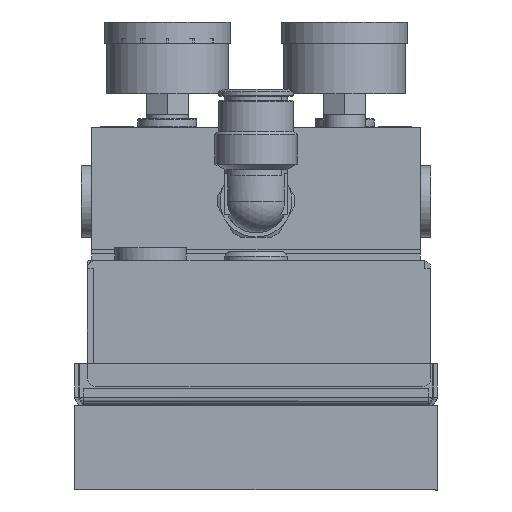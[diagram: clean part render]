
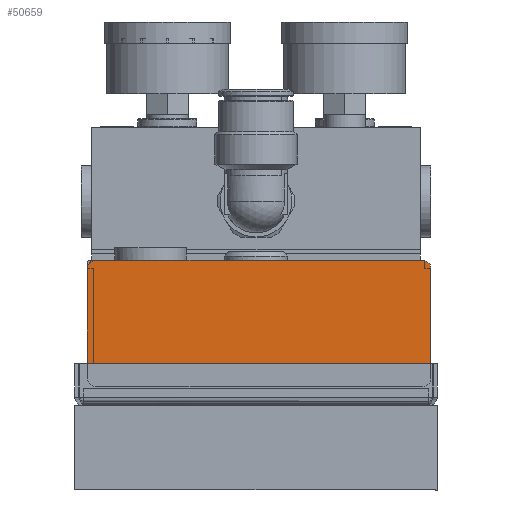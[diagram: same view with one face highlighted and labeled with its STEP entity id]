
A CAD part, front view. The second image highlights one B-rep face of the part: STEP entity #50659.
In plain terms, the highlighted planar face has unit normal (0, -1, 0).
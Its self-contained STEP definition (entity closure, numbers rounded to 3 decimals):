
#73 = CARTESIAN_POINT ( 'NONE',  ( -90.992, -1178.064, 1.327 ) ) ;
#147 = DIRECTION ( 'NONE',  ( 0., -1., 0. ) ) ;
#773 = DIRECTION ( 'NONE',  ( 0., 1., 0. ) ) ;
#1270 = ORIENTED_EDGE ( 'NONE', *, *, #40360, .F. ) ;
#1930 = LINE ( 'NONE', #25560, #1974 ) ;
#1974 = VECTOR ( 'NONE', #29881, 1000. ) ;
#2203 = CIRCLE ( 'NONE', #22258, 2. ) ;
#3123 = CARTESIAN_POINT ( 'NONE',  ( -88.992, -1178.064, 29.327 ) ) ;
#4678 = EDGE_CURVE ( 'NONE', #18770, #53908, #2203, .T. ) ;
#4890 = CARTESIAN_POINT ( 'NONE',  ( -11.492, -1178.064, 1.327 ) ) ;
#6028 = DIRECTION ( 'NONE',  ( 0., 1., 0. ) ) ;
#6137 = ORIENTED_EDGE ( 'NONE', *, *, #4678, .F. ) ;
#8725 = CARTESIAN_POINT ( 'NONE',  ( -88.992, -1178.064, -0.673 ) ) ;
#12542 = VECTOR ( 'NONE', #49815, 1000. ) ;
#12597 = LINE ( 'NONE', #3123, #12542 ) ;
#12793 = DIRECTION ( 'NONE',  ( 0., 1., 0. ) ) ;
#13867 = DIRECTION ( 'NONE',  ( 0., 1., 0. ) ) ;
#14103 = ORIENTED_EDGE ( 'NONE', *, *, #20179, .F. ) ;
#14724 = ORIENTED_EDGE ( 'NONE', *, *, #18721, .F. ) ;
#15212 = CARTESIAN_POINT ( 'NONE',  ( -88.992, -1178.064, -0.673 ) ) ;
#16963 = CARTESIAN_POINT ( 'NONE',  ( -11.492, -1178.064, 29.327 ) ) ;
#17062 = EDGE_LOOP ( 'NONE', ( #21635, #47165, #35986, #14724, #6137, #14103, #31845, #1270 ) ) ;
#17339 = EDGE_CURVE ( 'NONE', #31674, #33628, #46182, .T. ) ;
#17647 = DIRECTION ( 'NONE',  ( -1., 0., 0. ) ) ;
#18721 = EDGE_CURVE ( 'NONE', #53908, #31674, #20693, .T. ) ;
#18770 = VERTEX_POINT ( 'NONE', #16963 ) ;
#20112 = VERTEX_POINT ( 'NONE', #32708 ) ;
#20179 = EDGE_CURVE ( 'NONE', #20112, #18770, #12597, .T. ) ;
#20693 = LINE ( 'NONE', #48630, #21041 ) ;
#21041 = VECTOR ( 'NONE', #49002, 1000. ) ;
#21635 = ORIENTED_EDGE ( 'NONE', *, *, #48827, .F. ) ;
#22166 = FACE_OUTER_BOUND ( 'NONE', #17062, .T. ) ;
#22258 = AXIS2_PLACEMENT_3D ( 'NONE', #35290, #6028, #30953 ) ;
#22652 = EDGE_CURVE ( 'NONE', #33628, #26929, #40457, .T. ) ;
#24663 = VERTEX_POINT ( 'NONE', #40568 ) ;
#25560 = CARTESIAN_POINT ( 'NONE',  ( -90.992, -1178.064, 1.327 ) ) ;
#26489 = AXIS2_PLACEMENT_3D ( 'NONE', #39291, #13867, #43668 ) ;
#26929 = VERTEX_POINT ( 'NONE', #15212 ) ;
#28723 = AXIS2_PLACEMENT_3D ( 'NONE', #38147, #12793, #42500 ) ;
#29066 = DIRECTION ( 'NONE',  ( -1., 0., 0. ) ) ;
#29881 = DIRECTION ( 'NONE',  ( 0., 0., 1. ) ) ;
#30953 = DIRECTION ( 'NONE',  ( 1., 0., 0. ) ) ;
#31674 = VERTEX_POINT ( 'NONE', #32419 ) ;
#31845 = ORIENTED_EDGE ( 'NONE', *, *, #48647, .F. ) ;
#32419 = CARTESIAN_POINT ( 'NONE',  ( -9.492, -1178.064, 1.327 ) ) ;
#32708 = CARTESIAN_POINT ( 'NONE',  ( -88.992, -1178.064, 29.327 ) ) ;
#32778 = VERTEX_POINT ( 'NONE', #73 ) ;
#33628 = VERTEX_POINT ( 'NONE', #43605 ) ;
#35290 = CARTESIAN_POINT ( 'NONE',  ( -11.492, -1178.064, 27.327 ) ) ;
#35499 = AXIS2_PLACEMENT_3D ( 'NONE', #46285, #147, #29066 ) ;
#35986 = ORIENTED_EDGE ( 'NONE', *, *, #17339, .F. ) ;
#38147 = CARTESIAN_POINT ( 'NONE',  ( -88.992, -1178.064, 27.327 ) ) ;
#39291 = CARTESIAN_POINT ( 'NONE',  ( -88.992, -1178.064, 1.327 ) ) ;
#40345 = VECTOR ( 'NONE', #17647, 1000. ) ;
#40360 = EDGE_CURVE ( 'NONE', #32778, #24663, #1930, .T. ) ;
#40444 = AXIS2_PLACEMENT_3D ( 'NONE', #4890, #773, #51286 ) ;
#40457 = LINE ( 'NONE', #8725, #40345 ) ;
#40568 = CARTESIAN_POINT ( 'NONE',  ( -90.992, -1178.064, 27.327 ) ) ;
#41868 = PLANE ( 'NONE',  #35499 ) ;
#42500 = DIRECTION ( 'NONE',  ( -1., 0., 0. ) ) ;
#43605 = CARTESIAN_POINT ( 'NONE',  ( -11.492, -1178.064, -0.673 ) ) ;
#43668 = DIRECTION ( 'NONE',  ( -1., 0., 0. ) ) ;
#46182 = CIRCLE ( 'NONE', #40444, 2. ) ;
#46285 = CARTESIAN_POINT ( 'NONE',  ( -88.992, -1178.064, 1.327 ) ) ;
#47009 = CIRCLE ( 'NONE', #26489, 2. ) ;
#47165 = ORIENTED_EDGE ( 'NONE', *, *, #22652, .F. ) ;
#48630 = CARTESIAN_POINT ( 'NONE',  ( -9.492, -1178.064, 1.327 ) ) ;
#48647 = EDGE_CURVE ( 'NONE', #24663, #20112, #49370, .T. ) ;
#48827 = EDGE_CURVE ( 'NONE', #26929, #32778, #47009, .T. ) ;
#49002 = DIRECTION ( 'NONE',  ( 0., 0., -1. ) ) ;
#49370 = CIRCLE ( 'NONE', #28723, 2. ) ;
#49815 = DIRECTION ( 'NONE',  ( 1., 0., 0. ) ) ;
#50659 = ADVANCED_FACE ( 'NONE', ( #22166 ), #41868, .T. ) ;
#51225 = CARTESIAN_POINT ( 'NONE',  ( -9.492, -1178.064, 27.327 ) ) ;
#51286 = DIRECTION ( 'NONE',  ( 1., 0., 0. ) ) ;
#53908 = VERTEX_POINT ( 'NONE', #51225 ) ;
